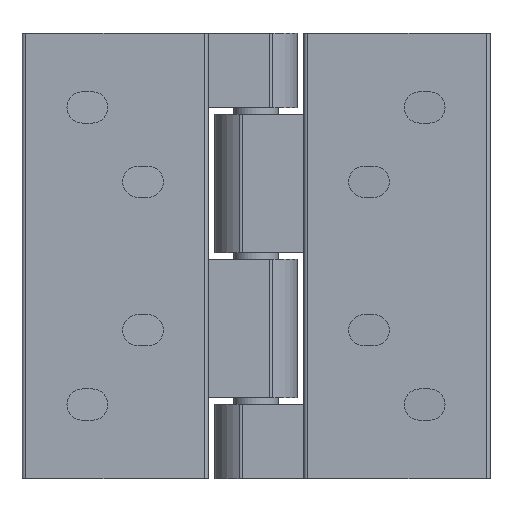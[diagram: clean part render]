
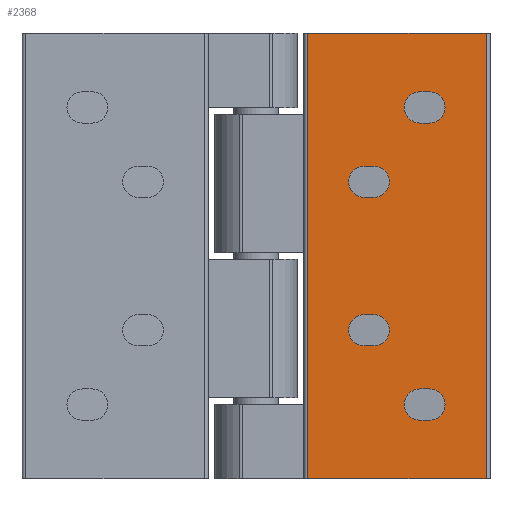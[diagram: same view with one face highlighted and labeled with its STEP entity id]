
A CAD part, front view. The second image highlights one B-rep face of the part: STEP entity #2368.
In plain terms, the highlighted planar face has unit normal (0, -1, 0).
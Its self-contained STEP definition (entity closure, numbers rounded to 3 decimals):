
#124=LINE('',#3664,#369);
#175=LINE('',#3822,#420);
#176=LINE('',#3826,#421);
#177=LINE('',#3831,#422);
#178=LINE('',#3834,#423);
#179=LINE('',#3839,#424);
#180=LINE('',#3842,#425);
#181=LINE('',#3847,#426);
#182=LINE('',#3850,#427);
#183=LINE('',#3855,#428);
#184=LINE('',#3858,#429);
#185=LINE('',#3860,#430);
#369=VECTOR('',#2970,1000.);
#420=VECTOR('',#3119,1000.);
#421=VECTOR('',#3124,1000.);
#422=VECTOR('',#3127,1000.);
#423=VECTOR('',#3130,1000.);
#424=VECTOR('',#3133,1000.);
#425=VECTOR('',#3136,1000.);
#426=VECTOR('',#3139,1000.);
#427=VECTOR('',#3142,1000.);
#428=VECTOR('',#3145,1000.);
#429=VECTOR('',#3148,1000.);
#430=VECTOR('',#3149,1000.);
#591=PLANE('',#2605);
#971=ORIENTED_EDGE('',*,*,#1517,.F.);
#972=ORIENTED_EDGE('',*,*,#1518,.F.);
#973=ORIENTED_EDGE('',*,*,#1519,.F.);
#974=ORIENTED_EDGE('',*,*,#1520,.F.);
#975=ORIENTED_EDGE('',*,*,#1521,.F.);
#976=ORIENTED_EDGE('',*,*,#1522,.F.);
#977=ORIENTED_EDGE('',*,*,#1523,.F.);
#978=ORIENTED_EDGE('',*,*,#1524,.F.);
#979=ORIENTED_EDGE('',*,*,#1525,.F.);
#980=ORIENTED_EDGE('',*,*,#1526,.F.);
#981=ORIENTED_EDGE('',*,*,#1527,.F.);
#982=ORIENTED_EDGE('',*,*,#1528,.F.);
#983=ORIENTED_EDGE('',*,*,#1529,.F.);
#984=ORIENTED_EDGE('',*,*,#1530,.F.);
#985=ORIENTED_EDGE('',*,*,#1531,.F.);
#986=ORIENTED_EDGE('',*,*,#1532,.F.);
#987=ORIENTED_EDGE('',*,*,#1437,.T.);
#988=ORIENTED_EDGE('',*,*,#1533,.F.);
#989=ORIENTED_EDGE('',*,*,#1534,.F.);
#990=ORIENTED_EDGE('',*,*,#1515,.T.);
#1437=EDGE_CURVE('',#1735,#1734,#124,.T.);
#1515=EDGE_CURVE('',#1793,#1735,#175,.T.);
#1517=EDGE_CURVE('',#1794,#1795,#176,.T.);
#1518=EDGE_CURVE('',#1796,#1794,#1919,.F.);
#1519=EDGE_CURVE('',#1797,#1796,#177,.T.);
#1520=EDGE_CURVE('',#1795,#1797,#1920,.F.);
#1521=EDGE_CURVE('',#1798,#1799,#178,.T.);
#1522=EDGE_CURVE('',#1800,#1798,#1921,.F.);
#1523=EDGE_CURVE('',#1801,#1800,#179,.T.);
#1524=EDGE_CURVE('',#1799,#1801,#1922,.F.);
#1525=EDGE_CURVE('',#1802,#1803,#180,.T.);
#1526=EDGE_CURVE('',#1804,#1802,#1923,.F.);
#1527=EDGE_CURVE('',#1805,#1804,#181,.T.);
#1528=EDGE_CURVE('',#1803,#1805,#1924,.F.);
#1529=EDGE_CURVE('',#1806,#1807,#182,.T.);
#1530=EDGE_CURVE('',#1808,#1806,#1925,.F.);
#1531=EDGE_CURVE('',#1809,#1808,#183,.T.);
#1532=EDGE_CURVE('',#1807,#1809,#1926,.F.);
#1533=EDGE_CURVE('',#1810,#1734,#184,.T.);
#1534=EDGE_CURVE('',#1793,#1810,#185,.T.);
#1734=VERTEX_POINT('',#3663);
#1735=VERTEX_POINT('',#3665);
#1793=VERTEX_POINT('',#3823);
#1794=VERTEX_POINT('',#3827);
#1795=VERTEX_POINT('',#3828);
#1796=VERTEX_POINT('',#3830);
#1797=VERTEX_POINT('',#3832);
#1798=VERTEX_POINT('',#3835);
#1799=VERTEX_POINT('',#3836);
#1800=VERTEX_POINT('',#3838);
#1801=VERTEX_POINT('',#3840);
#1802=VERTEX_POINT('',#3843);
#1803=VERTEX_POINT('',#3844);
#1804=VERTEX_POINT('',#3846);
#1805=VERTEX_POINT('',#3848);
#1806=VERTEX_POINT('',#3851);
#1807=VERTEX_POINT('',#3852);
#1808=VERTEX_POINT('',#3854);
#1809=VERTEX_POINT('',#3856);
#1810=VERTEX_POINT('',#3859);
#1919=CIRCLE('',#2606,2.1);
#1920=CIRCLE('',#2607,2.1);
#1921=CIRCLE('',#2608,2.1);
#1922=CIRCLE('',#2609,2.1);
#1923=CIRCLE('',#2610,2.1);
#1924=CIRCLE('',#2611,2.1);
#1925=CIRCLE('',#2612,2.1);
#1926=CIRCLE('',#2613,2.1);
#2025=EDGE_LOOP('',(#971,#972,#973,#974));
#2026=EDGE_LOOP('',(#975,#976,#977,#978));
#2027=EDGE_LOOP('',(#979,#980,#981,#982));
#2028=EDGE_LOOP('',(#983,#984,#985,#986));
#2029=EDGE_LOOP('',(#987,#988,#989,#990));
#2181=FACE_BOUND('',#2025,.T.);
#2182=FACE_BOUND('',#2026,.T.);
#2183=FACE_BOUND('',#2027,.T.);
#2184=FACE_BOUND('',#2028,.T.);
#2185=FACE_BOUND('',#2029,.T.);
#2368=ADVANCED_FACE('',(#2181,#2182,#2183,#2184,#2185),#591,.F.);
#2605=AXIS2_PLACEMENT_3D('',#3825,#3122,#3123);
#2606=AXIS2_PLACEMENT_3D('',#3829,#3125,#3126);
#2607=AXIS2_PLACEMENT_3D('',#3833,#3128,#3129);
#2608=AXIS2_PLACEMENT_3D('',#3837,#3131,#3132);
#2609=AXIS2_PLACEMENT_3D('',#3841,#3134,#3135);
#2610=AXIS2_PLACEMENT_3D('',#3845,#3137,#3138);
#2611=AXIS2_PLACEMENT_3D('',#3849,#3140,#3141);
#2612=AXIS2_PLACEMENT_3D('',#3853,#3143,#3144);
#2613=AXIS2_PLACEMENT_3D('',#3857,#3146,#3147);
#2970=DIRECTION('',(1.,0.,0.));
#3119=DIRECTION('',(0.,0.,-1.));
#3122=DIRECTION('',(0.,1.,0.));
#3123=DIRECTION('',(0.,0.,1.));
#3124=DIRECTION('',(1.,0.,0.));
#3125=DIRECTION('',(0.,1.,0.));
#3126=DIRECTION('',(0.,0.,1.));
#3127=DIRECTION('',(-1.,0.,0.));
#3128=DIRECTION('',(0.,1.,0.));
#3129=DIRECTION('',(0.,0.,1.));
#3130=DIRECTION('',(1.,0.,0.));
#3131=DIRECTION('',(0.,1.,0.));
#3132=DIRECTION('',(0.,0.,1.));
#3133=DIRECTION('',(-1.,0.,0.));
#3134=DIRECTION('',(0.,1.,0.));
#3135=DIRECTION('',(0.,0.,1.));
#3136=DIRECTION('',(1.,0.,0.));
#3137=DIRECTION('',(0.,1.,0.));
#3138=DIRECTION('',(0.,0.,1.));
#3139=DIRECTION('',(-1.,0.,0.));
#3140=DIRECTION('',(0.,1.,0.));
#3141=DIRECTION('',(0.,0.,1.));
#3142=DIRECTION('',(1.,0.,0.));
#3143=DIRECTION('',(0.,1.,0.));
#3144=DIRECTION('',(0.,0.,1.));
#3145=DIRECTION('',(-1.,0.,0.));
#3146=DIRECTION('',(0.,1.,0.));
#3147=DIRECTION('',(0.,0.,1.));
#3148=DIRECTION('',(0.,0.,-1.));
#3149=DIRECTION('',(1.,0.,0.));
#3663=CARTESIAN_POINT('',(-6.95,-6.55,-30.));
#3664=CARTESIAN_POINT('',(-31.,-6.55,-30.));
#3665=CARTESIAN_POINT('',(-31.,-6.55,-30.));
#3822=CARTESIAN_POINT('',(-31.,-6.55,30.));
#3823=CARTESIAN_POINT('',(-31.,-6.55,30.));
#3825=CARTESIAN_POINT('',(-31.,-6.55,30.));
#3826=CARTESIAN_POINT('',(-31.,-6.55,-22.1));
#3827=CARTESIAN_POINT('',(-23.35,-6.55,-22.1));
#3828=CARTESIAN_POINT('',(-22.05,-6.55,-22.1));
#3829=CARTESIAN_POINT('',(-23.35,-6.55,-20.));
#3830=CARTESIAN_POINT('',(-23.35,-6.55,-17.9));
#3831=CARTESIAN_POINT('',(-31.,-6.55,-17.9));
#3832=CARTESIAN_POINT('',(-22.05,-6.55,-17.9));
#3833=CARTESIAN_POINT('',(-22.05,-6.55,-20.));
#3834=CARTESIAN_POINT('',(-31.,-6.55,17.9));
#3835=CARTESIAN_POINT('',(-23.35,-6.55,17.9));
#3836=CARTESIAN_POINT('',(-22.05,-6.55,17.9));
#3837=CARTESIAN_POINT('',(-23.35,-6.55,20.));
#3838=CARTESIAN_POINT('',(-23.35,-6.55,22.1));
#3839=CARTESIAN_POINT('',(-31.,-6.55,22.1));
#3840=CARTESIAN_POINT('',(-22.05,-6.55,22.1));
#3841=CARTESIAN_POINT('',(-22.05,-6.55,20.));
#3842=CARTESIAN_POINT('',(-31.,-6.55,-12.1));
#3843=CARTESIAN_POINT('',(-15.85,-6.55,-12.1));
#3844=CARTESIAN_POINT('',(-14.55,-6.55,-12.1));
#3845=CARTESIAN_POINT('',(-15.85,-6.55,-10.));
#3846=CARTESIAN_POINT('',(-15.85,-6.55,-7.9));
#3847=CARTESIAN_POINT('',(-31.,-6.55,-7.9));
#3848=CARTESIAN_POINT('',(-14.55,-6.55,-7.9));
#3849=CARTESIAN_POINT('',(-14.55,-6.55,-10.));
#3850=CARTESIAN_POINT('',(-31.,-6.55,7.9));
#3851=CARTESIAN_POINT('',(-15.85,-6.55,7.9));
#3852=CARTESIAN_POINT('',(-14.55,-6.55,7.9));
#3853=CARTESIAN_POINT('',(-15.85,-6.55,10.));
#3854=CARTESIAN_POINT('',(-15.85,-6.55,12.1));
#3855=CARTESIAN_POINT('',(-31.,-6.55,12.1));
#3856=CARTESIAN_POINT('',(-14.55,-6.55,12.1));
#3857=CARTESIAN_POINT('',(-14.55,-6.55,10.));
#3858=CARTESIAN_POINT('',(-6.95,-6.55,30.));
#3859=CARTESIAN_POINT('',(-6.95,-6.55,30.));
#3860=CARTESIAN_POINT('',(-31.,-6.55,30.));
